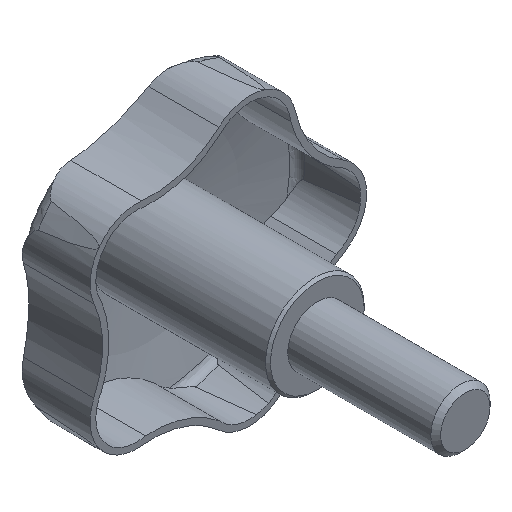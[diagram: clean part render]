
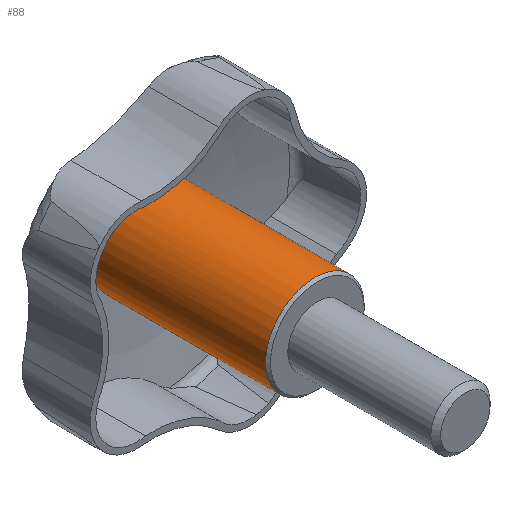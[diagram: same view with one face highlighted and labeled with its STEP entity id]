
A CAD part, isometric view. The second image highlights one B-rep face of the part: STEP entity #88.
In plain terms, the highlighted cylindrical face has radius 10 mm (diameter 20 mm), a full revolution.
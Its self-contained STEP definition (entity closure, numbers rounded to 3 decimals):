
#88 = ADVANCED_FACE( '', ( #162, #163 ), #164, .T. );
#162 = FACE_OUTER_BOUND( '', #288, .T. );
#163 = FACE_OUTER_BOUND( '', #289, .T. );
#164 = CYLINDRICAL_SURFACE( '', #290, 10. );
#288 = EDGE_LOOP( '', ( #501 ) );
#289 = EDGE_LOOP( '', ( #502 ) );
#290 = AXIS2_PLACEMENT_3D( '', #503, #504, #505 );
#501 = ORIENTED_EDGE( '', *, *, #924, .F. );
#502 = ORIENTED_EDGE( '', *, *, #908, .T. );
#503 = CARTESIAN_POINT( '', ( 0., -30., 0. ) );
#504 = DIRECTION( '', ( 0., 1., 0. ) );
#505 = DIRECTION( '', ( 0., 0., -1. ) );
#908 = EDGE_CURVE( '', #1094, #1094, #1095, .T. );
#924 = EDGE_CURVE( '', #1122, #1122, #1123, .T. );
#1094 = VERTEX_POINT( '', #1557 );
#1095 = CIRCLE( '', #1558, 10. );
#1122 = VERTEX_POINT( '', #1689 );
#1123 = CIRCLE( '', #1690, 10. );
#1557 = CARTESIAN_POINT( '', ( 0., 35.798, -10. ) );
#1558 = AXIS2_PLACEMENT_3D( '', #2315, #2316, #2317 );
#1689 = CARTESIAN_POINT( '', ( 0., 0.5, -10. ) );
#1690 = AXIS2_PLACEMENT_3D( '', #2328, #2329, #2330 );
#2315 = CARTESIAN_POINT( '', ( 0., 35.798, 0. ) );
#2316 = DIRECTION( '', ( 0., -1., 0. ) );
#2317 = DIRECTION( '', ( 0., 0., -1. ) );
#2328 = CARTESIAN_POINT( '', ( 0., 0.5, 0. ) );
#2329 = DIRECTION( '', ( 0., -1., 0. ) );
#2330 = DIRECTION( '', ( 0., 0., -1. ) );
